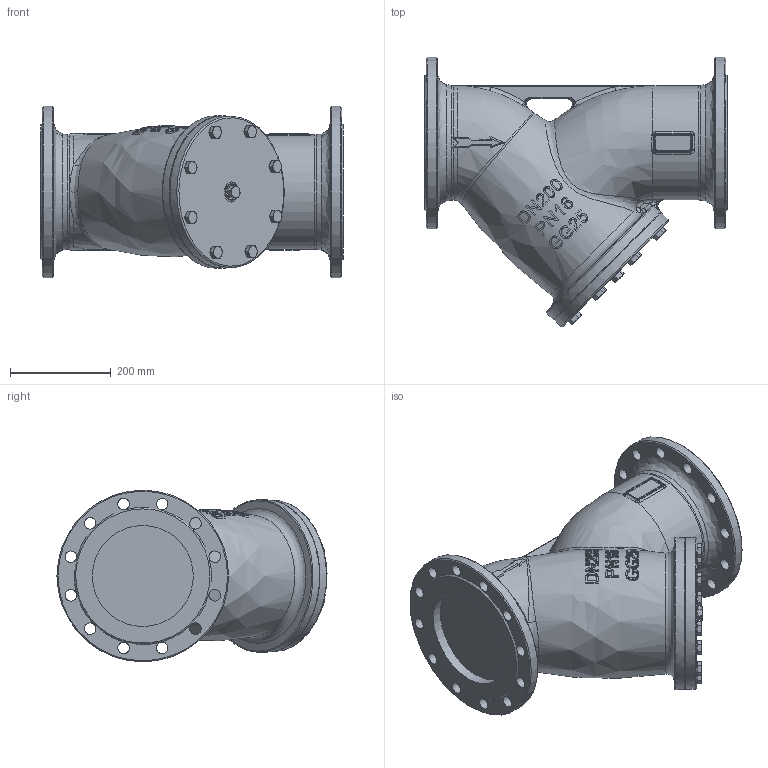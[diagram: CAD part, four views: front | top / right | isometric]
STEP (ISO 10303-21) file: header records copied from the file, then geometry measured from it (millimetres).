
FILE_DESCRIPTION (( 'STEP AP214' ), '1' );
FILE_NAME ('DN200.STEP', '2026-09-13T10:06:38', ( '' ), ( '' ), 'SwSTEP 2.0', 'SolidWorks 2024', '' );
FILE_SCHEMA (( 'AUTOMOTIVE_DESIGN' ));
Length unit declared in the file: millimetre
Products named in the file (1): DN200
Bounding box: 600 x 534.81 x 340 mm (x, y, z)
Volume: 35439033.9 mm3; surface area: 1145800.2 mm2
Topology: 1 solids, 13 shells, 895 faces, 2579 edges, 1683 vertices
Faces by surface type: bspline 456, plane 259, cylinder 99, cone 76, torus 5
Full cylindrical faces by diameter (mm): 16 x8, 18 x8, 23 x24, 32 x1, 40 x1, 200 x2, 226.35 x1, 300 x1, 301.8 x1, 340 x2
Entity records: 98206 total; most frequent: CARTESIAN_POINT 71744, ORIENTED_EDGE 4810, EDGE_CURVE 2405, DIRECTION 2230, VERTEX_POINT 1605, B_SPLINE_CURVE_WITH_KNOTS 1396, EDGE_LOOP 1030, FACE_OUTER_BOUND 951
